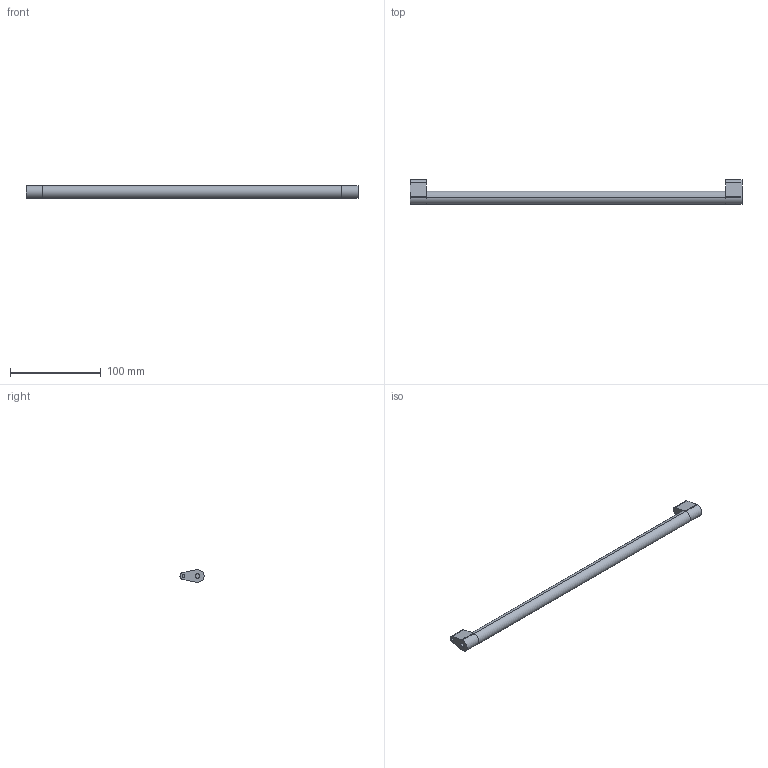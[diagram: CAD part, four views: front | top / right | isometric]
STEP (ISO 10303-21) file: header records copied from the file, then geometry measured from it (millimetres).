
FILE_DESCRIPTION (( 'STEP AP214' ), '1' );
FILE_NAME ('_Synchronisationseinheit Nova Pro KAB450_S16.step', '2010-07-08T13:58:27', ( 'grass' ), ( '' ), 'SwSTEP 2.0', 'SolidWorks 2010', '' );
FILE_SCHEMA (( 'AUTOMOTIVE_DESIGN' ));
Length unit declared in the file: millimetre
Products named in the file (1): _Synchronisationseinheit Nova Pro KAB450_S16
Bounding box: 365 x 26.5 x 14 mm (x, y, z)
Volume: 59874.2 mm3; surface area: 18900.5 mm2
Topology: 3 solids, 3 shells, 36 faces, 78 edges, 52 vertices
Faces by surface type: cylinder 18, plane 18
Entity records: 1050 total; most frequent: DIRECTION 188, CARTESIAN_POINT 167, ORIENTED_EDGE 156, EDGE_CURVE 78, AXIS2_PLACEMENT_3D 73, VERTEX_POINT 52, LINE 42, VECTOR 42
